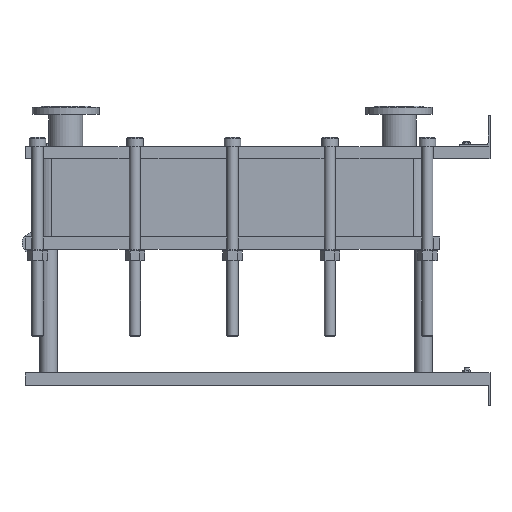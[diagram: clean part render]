
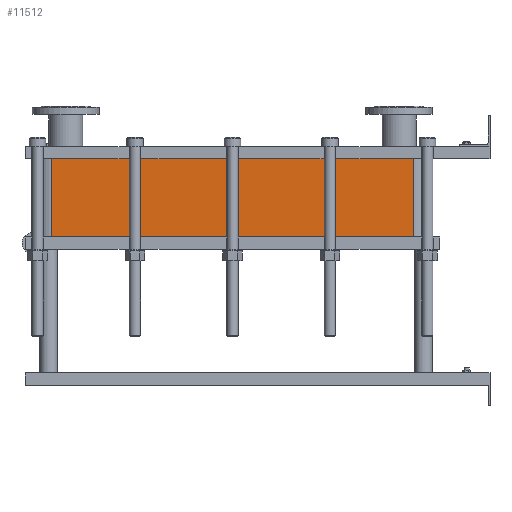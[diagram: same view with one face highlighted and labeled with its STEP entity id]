
A CAD part, left-side view. The second image highlights one B-rep face of the part: STEP entity #11512.
In plain terms, the highlighted planar face has unit normal (-1, 0, 0).
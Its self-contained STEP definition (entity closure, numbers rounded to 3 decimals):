
#1129=LINE('',#23232,#2102);
#1130=LINE('',#23236,#2103);
#1131=LINE('',#23238,#2104);
#1132=LINE('',#23239,#2105);
#2102=VECTOR('',#15887,10.);
#2103=VECTOR('',#15892,10.);
#2104=VECTOR('',#15893,10.);
#2105=VECTOR('',#15894,10.);
#3267=FACE_OUTER_BOUND('',#4093,.T.);
#4093=EDGE_LOOP('',(#10103,#10104,#10105,#10106));
#5642=VERTEX_POINT('',#23229);
#5643=VERTEX_POINT('',#23231);
#5644=VERTEX_POINT('',#23235);
#5645=VERTEX_POINT('',#23237);
#7159=EDGE_CURVE('',#5643,#5642,#1129,.T.);
#7161=EDGE_CURVE('',#5642,#5644,#1130,.T.);
#7162=EDGE_CURVE('',#5645,#5644,#1131,.T.);
#7163=EDGE_CURVE('',#5645,#5643,#1132,.T.);
#10103=ORIENTED_EDGE('',*,*,#7161,.T.);
#10104=ORIENTED_EDGE('',*,*,#7162,.F.);
#10105=ORIENTED_EDGE('',*,*,#7163,.T.);
#10106=ORIENTED_EDGE('',*,*,#7159,.T.);
#10857=PLANE('',#12751);
#11512=ADVANCED_FACE('',(#3267),#10857,.T.);
#12751=AXIS2_PLACEMENT_3D('',#23234,#15890,#15891);
#15887=DIRECTION('',(0.,0.,-1.));
#15890=DIRECTION('center_axis',(-1.,0.,0.));
#15891=DIRECTION('ref_axis',(0.,1.,0.));
#15892=DIRECTION('',(0.,-1.,0.));
#15893=DIRECTION('',(0.,0.,-1.));
#15894=DIRECTION('',(0.,1.,0.));
#23229=CARTESIAN_POINT('',(-200.,1414.,-251.85));
#23231=CARTESIAN_POINT('',(-200.,1414.,0.));
#23232=CARTESIAN_POINT('',(-200.,1414.,0.));
#23234=CARTESIAN_POINT('Origin',(-200.,248.,0.));
#23235=CARTESIAN_POINT('',(-200.,248.,-251.85));
#23236=CARTESIAN_POINT('',(-200.,539.5,-251.85));
#23237=CARTESIAN_POINT('',(-200.,248.,0.));
#23238=CARTESIAN_POINT('',(-200.,248.,0.));
#23239=CARTESIAN_POINT('',(-200.,248.,0.));
